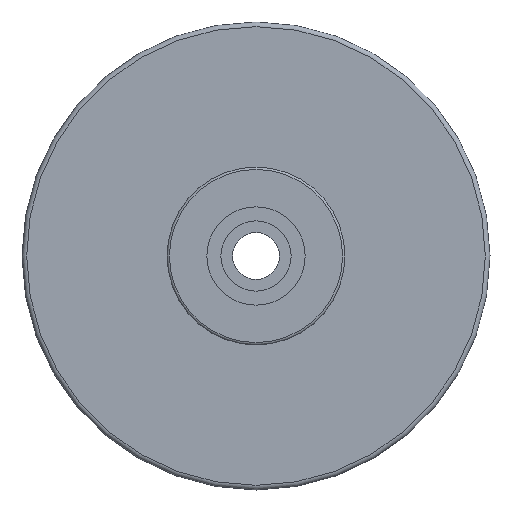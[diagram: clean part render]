
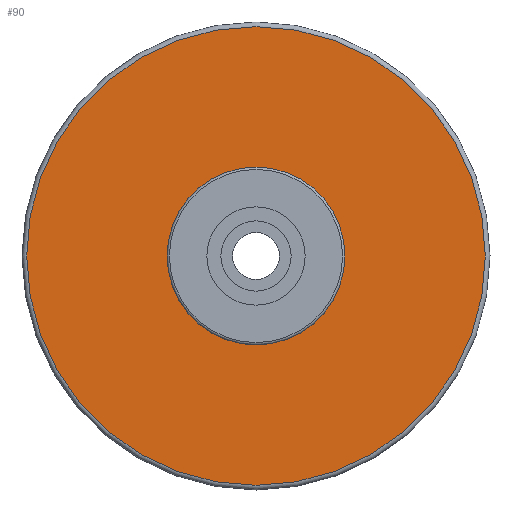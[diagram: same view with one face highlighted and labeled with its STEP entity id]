
A CAD part, left-side view. The second image highlights one B-rep face of the part: STEP entity #90.
In plain terms, the highlighted planar face has unit normal (-1, 0, 0).
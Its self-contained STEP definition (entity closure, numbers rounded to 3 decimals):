
#90 = ADVANCED_FACE( '', ( #148, #149 ), #150, .T. );
#148 = FACE_BOUND( '', #225, .T. );
#149 = FACE_OUTER_BOUND( '', #226, .T. );
#150 = PLANE( '', #227 );
#225 = EDGE_LOOP( '', ( #332 ) );
#226 = EDGE_LOOP( '', ( #333 ) );
#227 = AXIS2_PLACEMENT_3D( '', #334, #335, #336 );
#332 = ORIENTED_EDGE( '', *, *, #401, .T. );
#333 = ORIENTED_EDGE( '', *, *, #400, .F. );
#334 = CARTESIAN_POINT( '', ( 32., 98.001, 0. ) );
#335 = DIRECTION( '', ( -1., 0., 0. ) );
#336 = DIRECTION( '', ( 0., 0., 1. ) );
#400 = EDGE_CURVE( '', #443, #443, #444, .T. );
#401 = EDGE_CURVE( '', #445, #445, #446, .T. );
#443 = VERTEX_POINT( '', #578 );
#444 = CIRCLE( '', #579, 98.001 );
#445 = VERTEX_POINT( '', #580 );
#446 = CIRCLE( '', #581, 38. );
#578 = CARTESIAN_POINT( '', ( 32., 0., -98.001 ) );
#579 = AXIS2_PLACEMENT_3D( '', #642, #643, #644 );
#580 = CARTESIAN_POINT( '', ( 32., 0., -38. ) );
#581 = AXIS2_PLACEMENT_3D( '', #645, #646, #647 );
#642 = CARTESIAN_POINT( '', ( 32., 0., 0. ) );
#643 = DIRECTION( '', ( 1., 0., 0. ) );
#644 = DIRECTION( '', ( 0., 0., -1. ) );
#645 = CARTESIAN_POINT( '', ( 32., 0., 0. ) );
#646 = DIRECTION( '', ( 1., 0., 0. ) );
#647 = DIRECTION( '', ( 0., 0., -1. ) );
